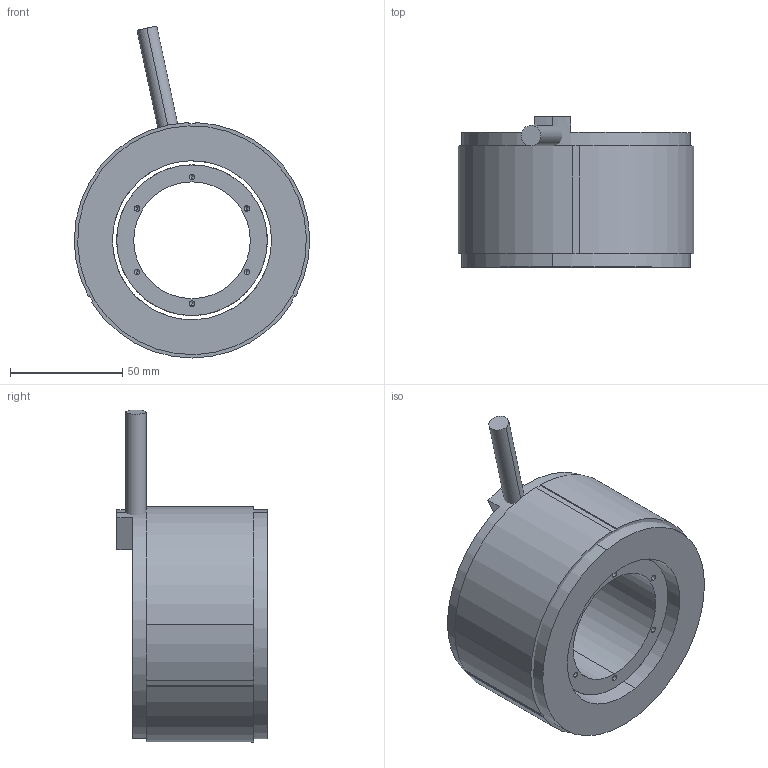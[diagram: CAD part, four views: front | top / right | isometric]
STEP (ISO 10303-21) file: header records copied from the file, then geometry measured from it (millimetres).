
FILE_DESCRIPTION (( 'STEP AP203' ), '1' );
FILE_NAME ('TMXSL150-60 KIT 3D.STEP', '2021-06-21T03:10:50', ( '' ), ( '' ), 'SwSTEP 2.0', 'SolidWorks 2021', '' );
FILE_SCHEMA (( 'CONFIG_CONTROL_DESIGN' ));
Length unit declared in the file: millimetre
Products named in the file (1): TMXSL150-60 KIT 3D
Bounding box: 104.99 x 67 x 148 mm (x, y, z)
Volume: 391453.8 mm3; surface area: 99746 mm2
Topology: 4 solids, 4 shells, 306 faces, 775 edges, 482 vertices
Faces by surface type: plane 208, cylinder 74, cone 24
Entity records: 9110 total; most frequent: DIRECTION 1637, CARTESIAN_POINT 1540, ORIENTED_EDGE 1502, EDGE_CURVE 751, AXIS2_PLACEMENT_3D 579, VERTEX_POINT 482, VECTOR 479, LINE 479
